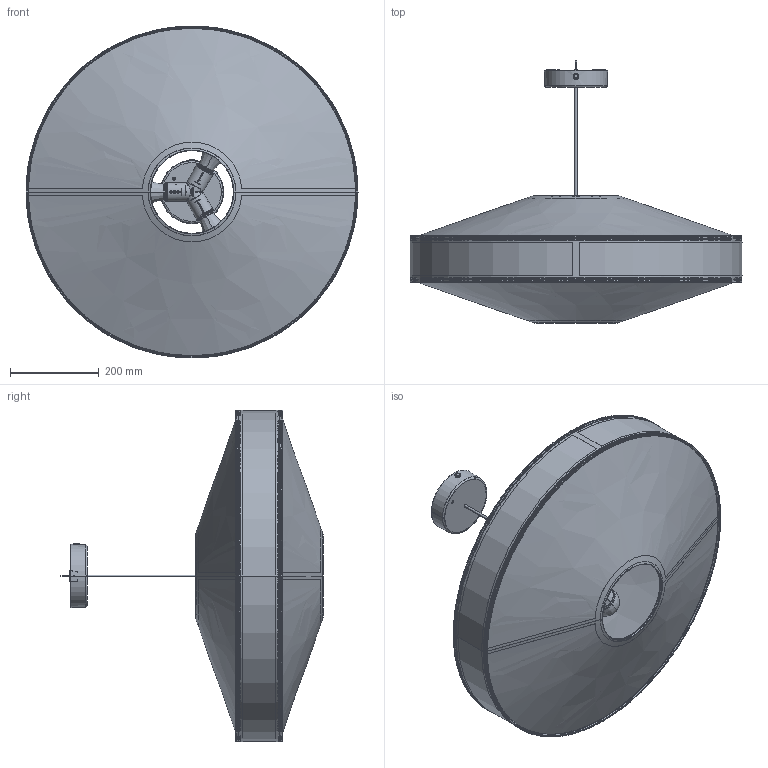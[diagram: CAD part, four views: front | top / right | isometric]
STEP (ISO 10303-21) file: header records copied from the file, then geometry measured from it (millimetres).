
FILE_DESCRIPTION(/* description */ (''),/* implementation_level */ '2;1');
FILE_NAME(/* name */ 'Kite Pendant Ø75 for web',/* time_stamp */ '2024-07-17T14:14:15+02:00',/* author */ (''),/* organization */ (''),/* preprocessor_version */ 'ST-DEVELOPER v19.2',/* originating_system */ 'Rhino 8.7',/* authorisation */ '');
FILE_SCHEMA (('CONFIG_CONTROL_DESIGN'));
Products named in the file (32): Document; M4X5PM; TOOTH_WASHER_M4; RUBBER_PLUG; M6_SET_SCREW; GROUND_WIRE-M5-M4; KITE_CANOPY; KITE-MOUNTING; SHADE-750_ASM; SHADE-750-CENTER-RING_ASM; SHADE-750-CENTER-RING; Block 01; CIRCLE-O749-D4; SHADE-750-TOP_ASM; SHADE-750-TOP; Block 02; CIRCLE-O205-D5; LAMP-HOLDER_ASM; LED_BULB_E27_ASM; IMPORTED3; IMPORTED2; IMPORTED4; IMPORTED1; E27-LAMPHOLDER-PLASTIC; LAMP-HOLDER-TOP; LAMP-HOLDER-BOTTOM; SCREW-PA3X10; HOLE-CAP; 301-CLIP; KITE750-TUBE; KITE-CRADLE-DIE-CAST; CABLE-O55
Bounding box: 750 x 592.24 x 749.85 mm (x, y, z)
Volume: 419882.5 mm3; surface area: 3110519.1 mm2
Topology: 47 solids, 95 shells, 4411 faces, 11934 edges, 7784 vertices
Faces by surface type: plane 2972, cylinder 796, bspline 643
Entity records: 150934 total; most frequent: CARTESIAN_POINT 73880, ORIENTED_EDGE 20070, EDGE_CURVE 10119, B_SPLINE_CURVE_WITH_KNOTS 8902, VERTEX_POINT 6641, DIRECTION 5963, AXIS2_PLACEMENT_3D 4650, EDGE_LOOP 3988
